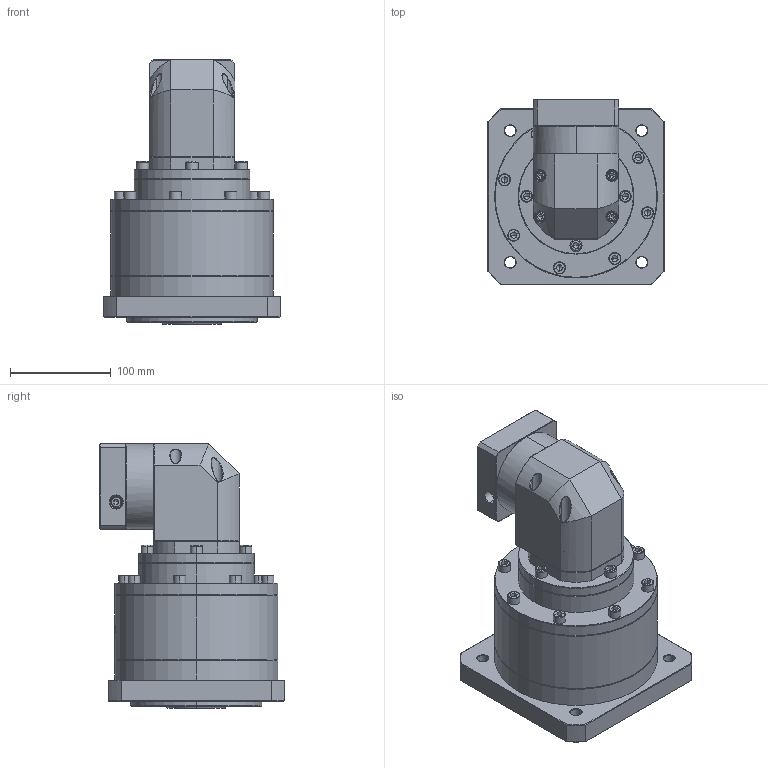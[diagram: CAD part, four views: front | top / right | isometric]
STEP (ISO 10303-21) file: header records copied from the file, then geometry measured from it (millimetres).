
FILE_DESCRIPTION (( 'STEP AP214' ), '1' );
FILE_NAME ('ZFR160A-K35-L3-P2-19-80-100-M6.step', '2023-09-03T10:06:54', ( '' ), ( '' ), 'SwSTEP 2.0', 'SolidWorks 2016', '' );
FILE_SCHEMA (( 'AUTOMOTIVE_DESIGN' ));
Length unit declared in the file: millimetre
Products named in the file (1): ZFR160A-K35-L3-P2-19-80-100-M6
Bounding box: 175 x 183.6 x 263.2 mm (x, y, z)
Volume: 3828886 mm3; surface area: 265742.1 mm2
Topology: 6 solids, 6 shells, 2547 faces, 6634 edges, 4216 vertices
Faces by surface type: plane 1231, cylinder 483, bspline 414, cone 361, torus 58
Entity records: 132357 total; most frequent: CARTESIAN_POINT 47079, ORIENTED_EDGE 13132, DIRECTION 10200, EDGE_CURVE 6566, VERTEX_POINT 4216, LINE 3556, VECTOR 3556, AXIS2_PLACEMENT_3D 3322
